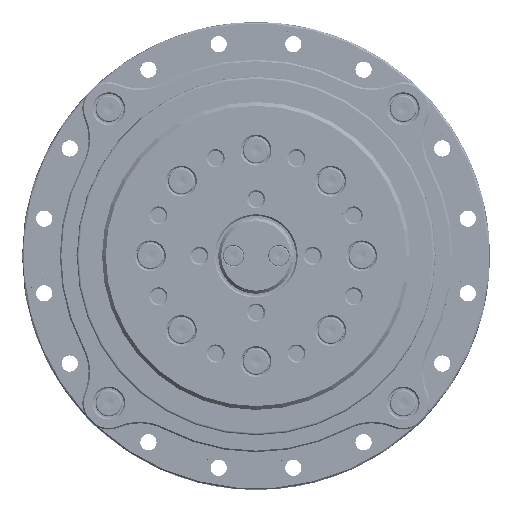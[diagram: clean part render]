
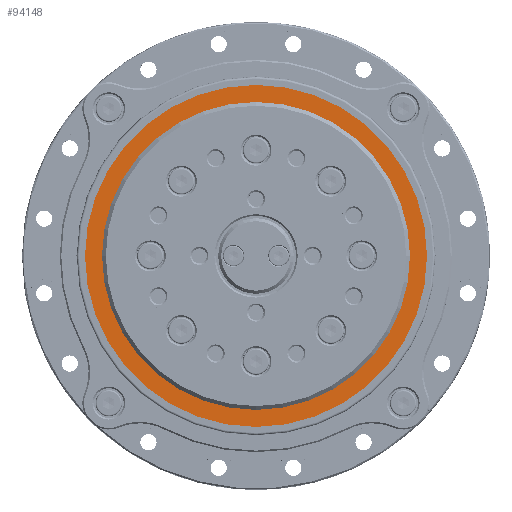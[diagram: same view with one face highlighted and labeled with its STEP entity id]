
A CAD part, top view. The second image highlights one B-rep face of the part: STEP entity #94148.
In plain terms, the highlighted planar face has unit normal (0, 0, 1) as drawn and (1, 0, 0) by its records, which use the part's own axes.
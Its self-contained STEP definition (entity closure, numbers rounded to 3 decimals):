
#3108=FACE_BOUND('',#18652,.T.);
#7636=PLANE('',#103715);
#12634=FACE_OUTER_BOUND('',#18651,.T.);
#18651=EDGE_LOOP('',(#87305));
#18652=EDGE_LOOP('',(#87306));
#39970=CIRCLE('',#103708,45.31);
#39974=CIRCLE('',#103716,40.7);
#48511=VERTEX_POINT('',#205444);
#48515=VERTEX_POINT('',#205458);
#61576=EDGE_CURVE('',#48511,#48511,#39970,.T.);
#61582=EDGE_CURVE('',#48515,#48515,#39974,.T.);
#87305=ORIENTED_EDGE('',*,*,#61576,.F.);
#87306=ORIENTED_EDGE('',*,*,#61582,.F.);
#94148=ADVANCED_FACE('',(#12634,#3108),#7636,.T.);
#103708=AXIS2_PLACEMENT_3D('',#205445,#129128,#129129);
#103715=AXIS2_PLACEMENT_3D('',#205457,#129144,#129145);
#103716=AXIS2_PLACEMENT_3D('',#205459,#129146,#129147);
#129128=DIRECTION('center_axis',(-1.,0.,0.));
#129129=DIRECTION('ref_axis',(0.,0.,-1.));
#129144=DIRECTION('center_axis',(1.,0.,0.));
#129145=DIRECTION('ref_axis',(0.,0.,-1.));
#129146=DIRECTION('center_axis',(1.,0.,0.));
#129147=DIRECTION('ref_axis',(0.,0.,-1.));
#205444=CARTESIAN_POINT('',(9.7,0.,45.31));
#205445=CARTESIAN_POINT('Origin',(9.7,0.,0.));
#205457=CARTESIAN_POINT('Origin',(9.7,40.7,0.));
#205458=CARTESIAN_POINT('',(9.7,0.,40.7));
#205459=CARTESIAN_POINT('Origin',(9.7,0.,0.));
